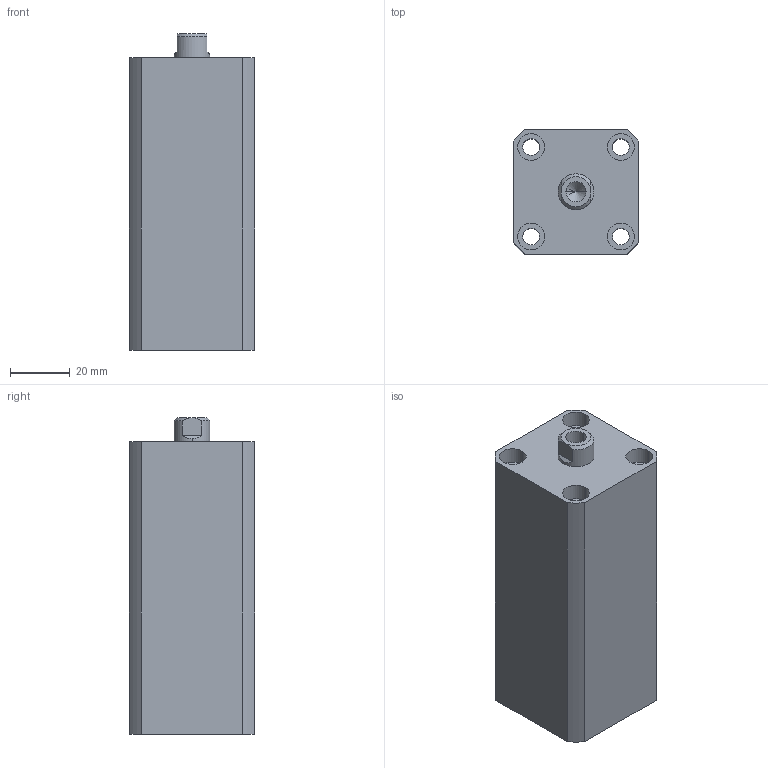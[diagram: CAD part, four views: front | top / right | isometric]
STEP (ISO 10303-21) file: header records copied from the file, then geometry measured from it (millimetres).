
FILE_DESCRIPTION (( 'STEP AP203' ), '1' );
FILE_NAME ('HTB-SDMB20-55N.STEP', '2019-10-08T11:58:00', ( '微软用户' ), ( '微软中国' ), 'SwSTEP 2.0', 'SolidWorks 2012', '' );
FILE_SCHEMA (( 'CONFIG_CONTROL_DESIGN' ));
Length unit declared in the file: millimetre
Products named in the file (3): HTB-SDMB20-55N; HTB-SDMB20-55掛极; HTB-SDMB20-55N活塞杆
Assembly tree (2 placements, depth 2):
  HTB-SDMB20-55N
    HTB-SDMB20-55掛极
    HTB-SDMB20-55N活塞杆
Bounding box: 42 x 42 x 106 mm (x, y, z)
Volume: 147510.8 mm3; surface area: 36889.6 mm2
Topology: 2 solids, 2 shells, 136 faces, 326 edges, 213 vertices
Faces by surface type: plane 64, cylinder 46, bspline 16, torus 6, cone 4
Entity records: 5023 total; most frequent: CARTESIAN_POINT 1570, ORIENTED_EDGE 648, DIRECTION 640, EDGE_CURVE 324, AXIS2_PLACEMENT_3D 231, VERTEX_POINT 213, VECTOR 178, LINE 178
